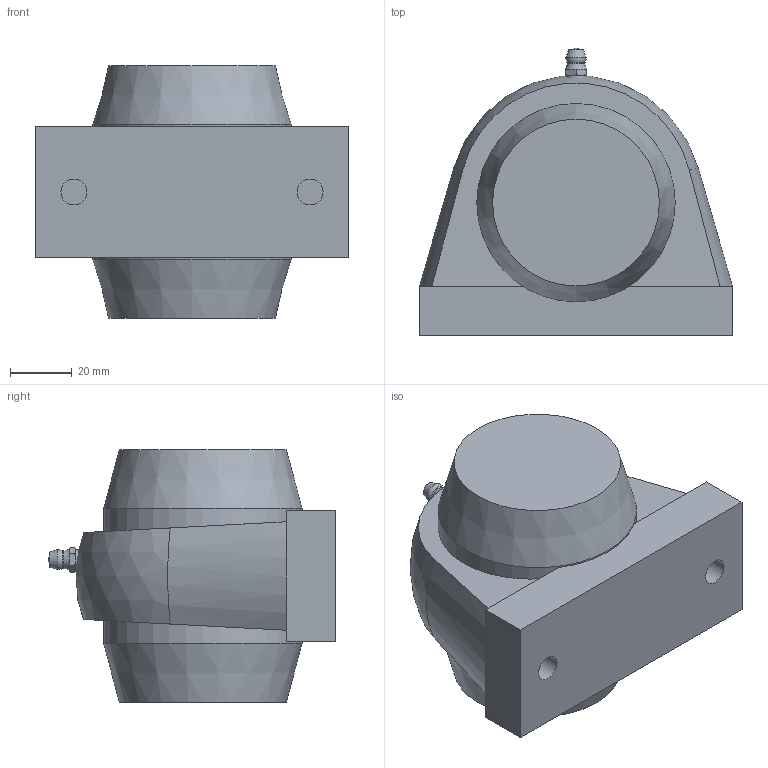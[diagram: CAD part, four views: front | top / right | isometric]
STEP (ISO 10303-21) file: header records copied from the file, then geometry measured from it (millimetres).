
FILE_DESCRIPTION(/* description */ (''),/* implementation_level */ '2;1');
FILE_NAME(/* name */ 'C:\Users\UGijyutu_200702\Desktop\77.プラスチックハウジング\MBTBL200V\MBTBL200VE\MBTBL206VE.stp',/* time_stamp */ '2024-05-28T13:19:57+09:00',/* author */ ('UGijyutu_200702'),/* organization */ (''),/* preprocessor_version */ 'ST-DEVELOPER v18',/* originating_system */ 'Autodesk Inventor 2020',/* authorisation */ '');
FILE_SCHEMA (('AUTOMOTIVE_DESIGN { 1 0 10303 214 3 1 1 }'));
Length unit declared in the file: millimetre
Products named in the file (6): MBTBL206V; TBL206; MB6 V; 1/4-28UNF-2A; 206C; 206E
Assembly tree (5 placements, depth 2):
  MBTBL206V
    TBL206
    MB6 V
    1/4-28UNF-2A
    206C
    206E
Bounding box: 101 x 92.8 x 81.6 mm (x, y, z)
Volume: 211906 mm3; surface area: 71366.2 mm2
Topology: 5 solids, 5 shells, 104 faces, 251 edges, 172 vertices
Faces by surface type: plane 54, cylinder 24, cone 19, sphere 5, torus 2
Full cylindrical faces by diameter (mm): 3.2 x1, 5 x2, 5.359 x1, 6.35 x1, 8.376 x2, 30 x2, 35 x1, 40.5 x1, 46 x1, 60 x2, 63.8 x2, 64 x2
Entity records: 3582 total; most frequent: CARTESIAN_POINT 791, DIRECTION 563, ORIENTED_EDGE 500, EDGE_CURVE 250, AXIS2_PLACEMENT_3D 236, VERTEX_POINT 172, EDGE_LOOP 128, CIRCLE 111
